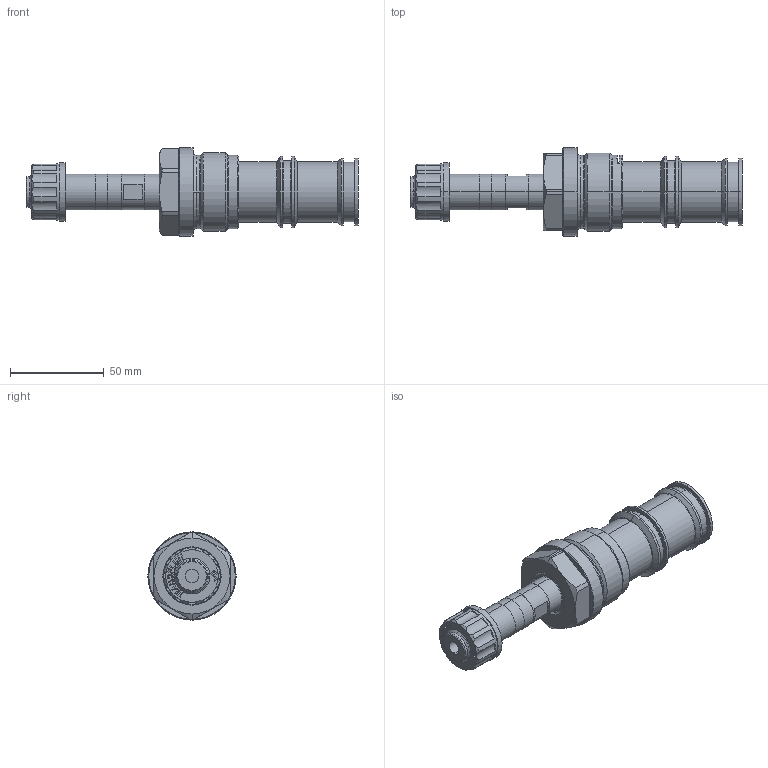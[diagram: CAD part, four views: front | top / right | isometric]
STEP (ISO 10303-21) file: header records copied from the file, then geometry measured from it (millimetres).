
FILE_DESCRIPTION (( 'STEP AP214' ), '1' );
FILE_NAME ('MVPPM42.STEP', '2014-03-19T09:39:01', ( '' ), ( '' ), 'SwSTEP 2.0', 'SolidWorks 2012', '' );
FILE_SCHEMA (( 'AUTOMOTIVE_DESIGN' ));
Length unit declared in the file: millimetre
Products named in the file (1): MVPPM42
Bounding box: 176.9 x 47 x 47 mm (x, y, z)
Volume: 136338.1 mm3; surface area: 34963.4 mm2
Topology: 5 solids, 7 shells, 471 faces, 1116 edges, 691 vertices
Faces by surface type: plane 185, cylinder 127, cone 73, torus 70, bspline 16
Entity records: 20027 total; most frequent: CARTESIAN_POINT 3837, DIRECTION 2357, ORIENTED_EDGE 2228, EDGE_CURVE 1114, AXIS2_PLACEMENT_3D 911, VERTEX_POINT 691, LINE 535, VECTOR 535
